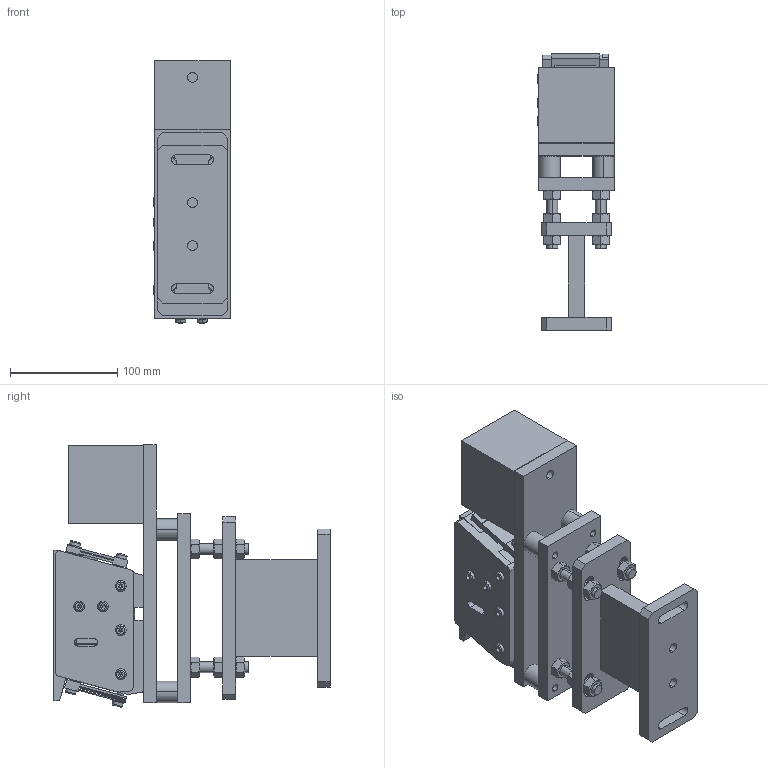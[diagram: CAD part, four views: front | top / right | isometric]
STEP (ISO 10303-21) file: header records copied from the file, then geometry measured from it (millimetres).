
FILE_DESCRIPTION (( 'STEP AP203' ), '1' );
FILE_NAME ('ZW140 饜笭 盓殤恁饜01.STEP', '2025-06-01T04:58:57', ( '' ), ( '' ), 'SwSTEP 2.0', 'SolidWorks 2022', '' );
FILE_SCHEMA (( 'CONFIG_CONTROL_DESIGN' ));
Length unit declared in the file: millimetre
Products named in the file (1): ZW140  饜笭  盓殤恁饜01
Bounding box: 70.9 x 257.38 x 244.26 mm (x, y, z)
Volume: 1696258.2 mm3; surface area: 282205.1 mm2
Topology: 28 solids, 31 shells, 904 faces, 2105 edges, 1320 vertices
Faces by surface type: plane 533, cylinder 195, cone 140, torus 36
Entity records: 29776 total; most frequent: CARTESIAN_POINT 8758, DIRECTION 4399, ORIENTED_EDGE 4194, EDGE_CURVE 2097, AXIS2_PLACEMENT_3D 1577, VERTEX_POINT 1320, VECTOR 1245, LINE 1245
